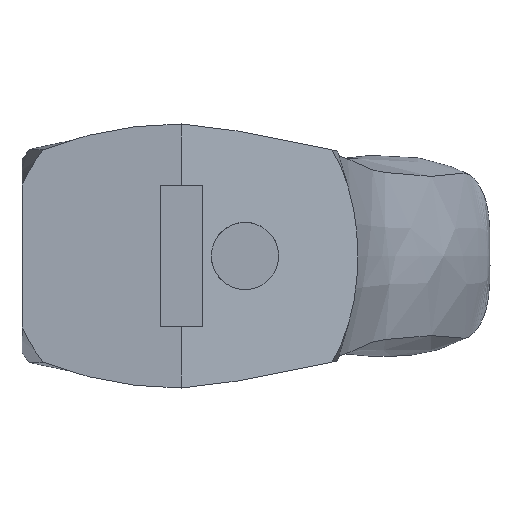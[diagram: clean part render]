
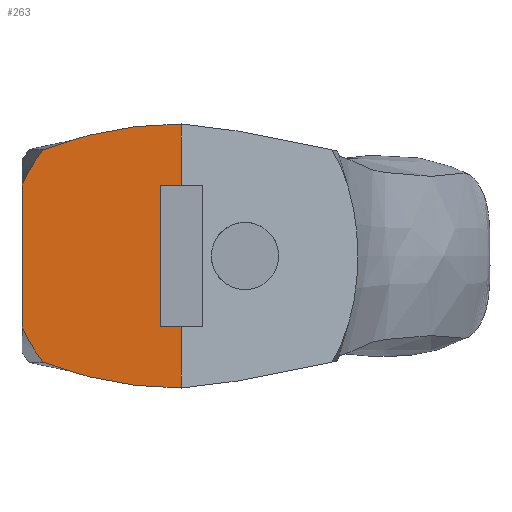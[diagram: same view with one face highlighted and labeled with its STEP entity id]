
A CAD part, left-side view. The second image highlights one B-rep face of the part: STEP entity #263.
In plain terms, the highlighted planar face has unit normal (-1, 0, 0).
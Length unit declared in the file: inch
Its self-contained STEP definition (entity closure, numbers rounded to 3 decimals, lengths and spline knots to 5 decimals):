
#18=CIRCLE('',#281,1.05177);
#19=CIRCLE('',#283,0.48808);
#20=CIRCLE('',#284,1.05174);
#21=CIRCLE('',#285,0.48808);
#38=FACE_OUTER_BOUND('',#56,.T.);
#56=EDGE_LOOP('',(#196,#197,#198,#199,#200,#201,#202,#203,#204,#205));
#90=LINE('',#360,#107);
#91=LINE('',#383,#108);
#93=LINE('',#578,#110);
#94=LINE('',#581,#111);
#95=LINE('',#583,#112);
#96=LINE('',#584,#113);
#107=VECTOR('',#303,0.3937);
#108=VECTOR('',#304,0.3937);
#110=VECTOR('',#312,0.3937);
#111=VECTOR('',#315,0.3937);
#112=VECTOR('',#316,0.3937);
#113=VECTOR('',#317,0.3937);
#124=VERTEX_POINT('',#357);
#125=VERTEX_POINT('',#359);
#128=VERTEX_POINT('',#377);
#129=VERTEX_POINT('',#382);
#131=VERTEX_POINT('',#487);
#134=VERTEX_POINT('',#576);
#135=VERTEX_POINT('',#577);
#136=VERTEX_POINT('',#580);
#137=VERTEX_POINT('',#582);
#138=VERTEX_POINT('',#585);
#149=EDGE_CURVE('',#124,#125,#90,.T.);
#153=EDGE_CURVE('',#128,#129,#91,.T.);
#156=EDGE_CURVE('',#125,#131,#18,.T.);
#160=EDGE_CURVE('',#134,#135,#93,.T.);
#161=EDGE_CURVE('',#131,#134,#19,.T.);
#162=EDGE_CURVE('',#124,#136,#94,.T.);
#163=EDGE_CURVE('',#136,#137,#95,.T.);
#164=EDGE_CURVE('',#137,#129,#96,.T.);
#165=EDGE_CURVE('',#138,#128,#20,.T.);
#166=EDGE_CURVE('',#135,#138,#21,.T.);
#196=ORIENTED_EDGE('',*,*,#160,.F.);
#197=ORIENTED_EDGE('',*,*,#161,.F.);
#198=ORIENTED_EDGE('',*,*,#156,.F.);
#199=ORIENTED_EDGE('',*,*,#149,.F.);
#200=ORIENTED_EDGE('',*,*,#162,.T.);
#201=ORIENTED_EDGE('',*,*,#163,.T.);
#202=ORIENTED_EDGE('',*,*,#164,.T.);
#203=ORIENTED_EDGE('',*,*,#153,.F.);
#204=ORIENTED_EDGE('',*,*,#165,.F.);
#205=ORIENTED_EDGE('',*,*,#166,.F.);
#253=PLANE('',#282);
#263=ADVANCED_FACE('',(#38),#253,.F.);
#281=AXIS2_PLACEMENT_3D('',#488,#308,#309);
#282=AXIS2_PLACEMENT_3D('',#575,#310,#311);
#283=AXIS2_PLACEMENT_3D('',#579,#313,#314);
#284=AXIS2_PLACEMENT_3D('',#586,#318,#319);
#285=AXIS2_PLACEMENT_3D('',#587,#320,#321);
#303=DIRECTION('',(0.,0.,-1.));
#304=DIRECTION('',(0.,0.,-1.));
#308=DIRECTION('center_axis',(1.,0.,0.));
#309=DIRECTION('ref_axis',(0.,-0.366,-0.931));
#310=DIRECTION('center_axis',(1.,0.,0.));
#311=DIRECTION('ref_axis',(0.,0.,-1.));
#312=DIRECTION('',(0.,0.,1.));
#313=DIRECTION('center_axis',(1.,0.,0.));
#314=DIRECTION('ref_axis',(0.,0.789,-0.615));
#315=DIRECTION('',(0.,1.,0.));
#316=DIRECTION('',(0.,0.,1.));
#317=DIRECTION('',(0.,-1.,0.));
#318=DIRECTION('center_axis',(1.,0.,0.));
#319=DIRECTION('ref_axis',(0.,0.366,0.931));
#320=DIRECTION('center_axis',(1.,0.,0.));
#321=DIRECTION('ref_axis',(0.,0.789,-0.615));
#357=CARTESIAN_POINT('',(0.,0.,-0.2));
#359=CARTESIAN_POINT('',(0.,0.,-0.37299));
#360=CARTESIAN_POINT('',(0.,0.,0.));
#377=CARTESIAN_POINT('',(0.,0.,0.37299));
#382=CARTESIAN_POINT('',(0.,0.,0.2));
#383=CARTESIAN_POINT('',(0.,0.,0.));
#487=CARTESIAN_POINT('',(0.,0.39,-0.3));
#488=CARTESIAN_POINT('Origin',(0.,0.005,0.67878));
#575=CARTESIAN_POINT('Origin',(0.,0.00648,
0.));
#576=CARTESIAN_POINT('',(0.,0.45,-0.2005));
#577=CARTESIAN_POINT('',(0.,0.45,0.2005));
#578=CARTESIAN_POINT('',(0.,0.45,0.));
#579=CARTESIAN_POINT('Origin',(0.,0.005,0.));
#580=CARTESIAN_POINT('',(0.,0.06,-0.2));
#581=CARTESIAN_POINT('',(0.,0.00324,-0.2));
#582=CARTESIAN_POINT('',(0.,0.06,0.2));
#583=CARTESIAN_POINT('',(0.,0.06,0.));
#584=CARTESIAN_POINT('',(0.,0.00324,0.2));
#585=CARTESIAN_POINT('',(0.,0.39,0.3));
#586=CARTESIAN_POINT('Origin',(0.,0.005,
-0.67874));
#587=CARTESIAN_POINT('Origin',(0.,0.005,0.));
